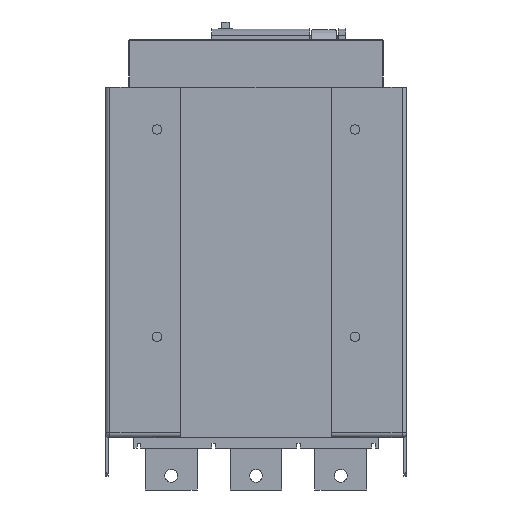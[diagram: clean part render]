
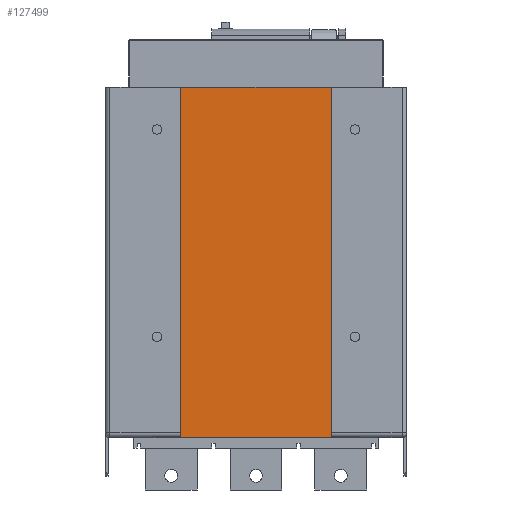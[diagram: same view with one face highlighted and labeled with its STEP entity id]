
A CAD part, front view. The second image highlights one B-rep face of the part: STEP entity #127499.
In plain terms, the highlighted planar face has unit normal (0, -1, 0).
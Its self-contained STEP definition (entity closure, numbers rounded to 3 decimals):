
#13360 = VERTEX_POINT ( 'NONE', #63865 ) ;
#13362 = EDGE_CURVE ( 'NONE', #13360, #13363, #63863, .T. ) ;
#13363 = VERTEX_POINT ( 'NONE', #63981 ) ;
#63115 = DIRECTION ( 'NONE',  ( 0., 0., 1. ) ) ;
#63116 = VECTOR ( 'NONE', #63115, 1000. ) ;
#63117 = CARTESIAN_POINT ( 'NONE',  ( -116.219, -80.534, -158.25 ) ) ;
#63119 = LINE ( 'NONE', #63117, #63116 ) ;
#63134 = CARTESIAN_POINT ( 'NONE',  ( -116.219, -80.534, -157.833 ) ) ;
#63250 = CARTESIAN_POINT ( 'NONE',  ( 43.781, -80.534, -157.833 ) ) ;
#63252 = DIRECTION ( 'NONE',  ( 0., 0., -1. ) ) ;
#63253 = VECTOR ( 'NONE', #63252, 1000. ) ;
#63254 = CARTESIAN_POINT ( 'NONE',  ( 43.781, -80.534, -158.25 ) ) ;
#63255 = LINE ( 'NONE', #63254, #63253 ) ;
#63390 = FACE_OUTER_BOUND ( 'NONE', #127500, .T. ) ;
#63475 = DIRECTION ( 'NONE',  ( 0., 0., 1. ) ) ;
#63476 = DIRECTION ( 'NONE',  ( 0., 1., 0. ) ) ;
#63477 = CARTESIAN_POINT ( 'NONE',  ( -116.219, -80.534, 213.75 ) ) ;
#63479 = AXIS2_PLACEMENT_3D ( 'NONE', #63477, #63476, #63475 ) ;
#63485 = PLANE ( 'NONE',  #63479 ) ;
#63535 = DIRECTION ( 'NONE',  ( 1., 0., 0. ) ) ;
#63537 = VECTOR ( 'NONE', #63535, 1000. ) ;
#63539 = CARTESIAN_POINT ( 'NONE',  ( -116.219, -80.534, -157.833 ) ) ;
#63541 = LINE ( 'NONE', #63539, #63537 ) ;
#63859 = DIRECTION ( 'NONE',  ( 1., 0., 0. ) ) ;
#63860 = VECTOR ( 'NONE', #63859, 1000. ) ;
#63862 = CARTESIAN_POINT ( 'NONE',  ( -116.219, -80.534, 213.75 ) ) ;
#63863 = LINE ( 'NONE', #63862, #63860 ) ;
#63865 = CARTESIAN_POINT ( 'NONE',  ( -116.219, -80.534, 213.75 ) ) ;
#63981 = CARTESIAN_POINT ( 'NONE',  ( 43.781, -80.534, 213.75 ) ) ;
#127445 = VERTEX_POINT ( 'NONE', #63134 ) ;
#127450 = EDGE_CURVE ( 'NONE', #127445, #13360, #63119, .T. ) ;
#127460 = EDGE_CURVE ( 'NONE', #13363, #127461, #63255, .T. ) ;
#127461 = VERTEX_POINT ( 'NONE', #63250 ) ;
#127499 = ADVANCED_FACE ( 'NONE', ( #63390 ), #63485, .F. ) ;
#127500 = EDGE_LOOP ( 'NONE', ( #127503, #127505, #127509, #127511 ) ) ;
#127503 = ORIENTED_EDGE ( 'NONE', *, *, #127450, .F. ) ;
#127505 = ORIENTED_EDGE ( 'NONE', *, *, #127506, .T. ) ;
#127506 = EDGE_CURVE ( 'NONE', #127445, #127461, #63541, .T. ) ;
#127509 = ORIENTED_EDGE ( 'NONE', *, *, #127460, .F. ) ;
#127511 = ORIENTED_EDGE ( 'NONE', *, *, #13362, .F. ) ;
